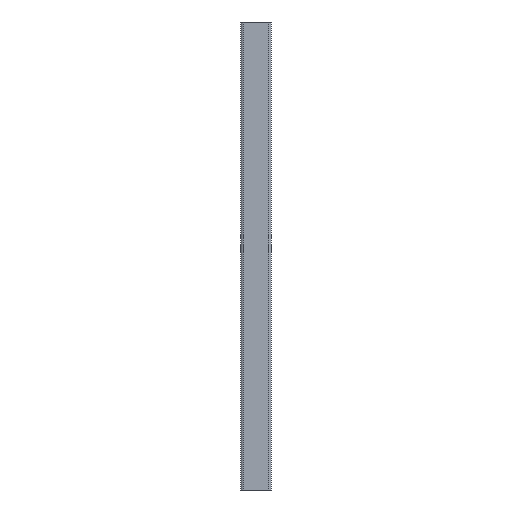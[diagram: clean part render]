
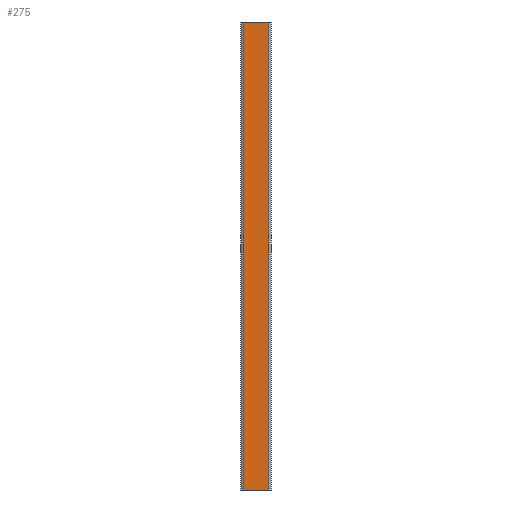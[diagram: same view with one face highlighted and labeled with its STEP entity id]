
A CAD part, left-side view. The second image highlights one B-rep face of the part: STEP entity #275.
In plain terms, the highlighted planar face has unit normal (-1, 0, 0).
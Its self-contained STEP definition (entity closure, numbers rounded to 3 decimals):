
#85 = LINE ( 'NONE', #497, #707 ) ;
#91 = EDGE_CURVE ( 'NONE', #405, #624, #487, .T. ) ;
#127 = ORIENTED_EDGE ( 'NONE', *, *, #91, .F. ) ;
#143 = DIRECTION ( 'NONE',  ( 0., -1., 0. ) ) ;
#196 = FACE_OUTER_BOUND ( 'NONE', #613, .T. ) ;
#197 = ORIENTED_EDGE ( 'NONE', *, *, #475, .T. ) ;
#250 = LINE ( 'NONE', #735, #644 ) ;
#261 = CARTESIAN_POINT ( 'NONE',  ( -15., -15., -250. ) ) ;
#275 = ADVANCED_FACE ( 'NONE', ( #196 ), #537, .T. ) ;
#282 = DIRECTION ( 'NONE',  ( 0., 0., -1. ) ) ;
#299 = EDGE_CURVE ( 'NONE', #768, #840, #333, .T. ) ;
#317 = DIRECTION ( 'NONE',  ( 0., 0., 1. ) ) ;
#333 = LINE ( 'NONE', #465, #695 ) ;
#397 = CARTESIAN_POINT ( 'NONE',  ( -15., -12., -250. ) ) ;
#399 = DIRECTION ( 'NONE',  ( -1., 0., 0. ) ) ;
#405 = VERTEX_POINT ( 'NONE', #459 ) ;
#459 = CARTESIAN_POINT ( 'NONE',  ( -15., 14.8, 250. ) ) ;
#465 = CARTESIAN_POINT ( 'NONE',  ( -15., 17.8, -250. ) ) ;
#475 = EDGE_CURVE ( 'NONE', #840, #624, #250, .T. ) ;
#487 = LINE ( 'NONE', #838, #508 ) ;
#497 = CARTESIAN_POINT ( 'NONE',  ( -15., 14.8, -250. ) ) ;
#508 = VECTOR ( 'NONE', #143, 1000. ) ;
#537 = PLANE ( 'NONE',  #877 ) ;
#613 = EDGE_LOOP ( 'NONE', ( #127, #849, #758, #197 ) ) ;
#624 = VERTEX_POINT ( 'NONE', #851 ) ;
#644 = VECTOR ( 'NONE', #317, 1000. ) ;
#674 = EDGE_CURVE ( 'NONE', #405, #768, #85, .T. ) ;
#689 = DIRECTION ( 'NONE',  ( 0., -1., 0. ) ) ;
#695 = VECTOR ( 'NONE', #747, 1000. ) ;
#707 = VECTOR ( 'NONE', #282, 1000. ) ;
#735 = CARTESIAN_POINT ( 'NONE',  ( -15., -12., -250. ) ) ;
#747 = DIRECTION ( 'NONE',  ( 0., -1., 0. ) ) ;
#758 = ORIENTED_EDGE ( 'NONE', *, *, #299, .T. ) ;
#768 = VERTEX_POINT ( 'NONE', #804 ) ;
#804 = CARTESIAN_POINT ( 'NONE',  ( -15., 14.8, -250. ) ) ;
#838 = CARTESIAN_POINT ( 'NONE',  ( -15., -15., 250. ) ) ;
#840 = VERTEX_POINT ( 'NONE', #397 ) ;
#849 = ORIENTED_EDGE ( 'NONE', *, *, #674, .T. ) ;
#851 = CARTESIAN_POINT ( 'NONE',  ( -15., -12., 250. ) ) ;
#877 = AXIS2_PLACEMENT_3D ( 'NONE', #261, #399, #689 ) ;
